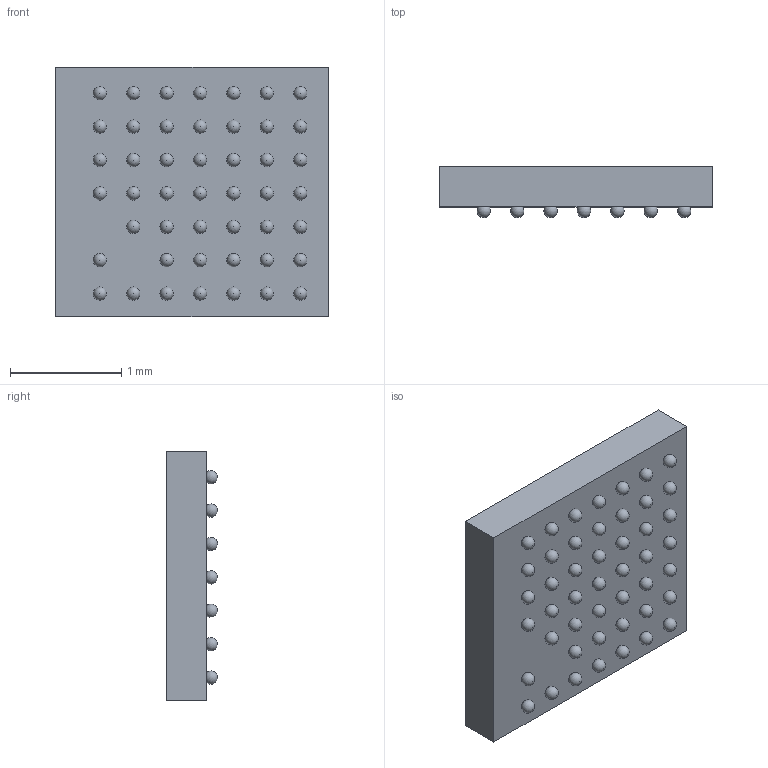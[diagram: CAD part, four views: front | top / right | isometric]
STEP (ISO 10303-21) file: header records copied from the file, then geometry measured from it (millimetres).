
FILE_DESCRIPTION(('FreeCAD Model'),'2;1');
FILE_NAME('Open CASCADE Shape Model','2025-09-13T01:46:28',(''),(''), 'Open CASCADE STEP processor 7.8','FreeCAD','Unknown');
FILE_SCHEMA(('AUTOMOTIVE_DESIGN { 1 0 10303 214 1 1 1 1 }'));
Length unit declared in the file: millimetre
Products named in the file (50): BGA_Test; Body_Solid1; Body002_Solid1; BALL_0001; BALL_0002; BALL_0003; BALL_0004; BALL_0005; BALL_0006; BALL_0007; BALL_0008; BALL_0009; BALL_0010; BALL_0011; BALL_0012; BALL_0013; BALL_0014; BALL_0015; BALL_0016; BALL_0017; BALL_0018; BALL_0019; BALL_0020; BALL_0021; BALL_0022; BALL_0023; BALL_0024; BALL_0025; BALL_0026; BALL_0027; BALL_0028; BALL_0029; BALL_0030; BALL_0031; BALL_0032; BALL_0033; BALL_0034; BALL_0035; BALL_0036; BALL_0037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
Assembly tree (49 placements, depth 2):
  BGA_Test
    Body_Solid1
    Body002_Solid1
    BALL_0001
    BALL_0002
    BALL_0003
    BALL_0004
    BALL_0005
    BALL_0006
    BALL_0007
    BALL_0008
    BALL_0009
    BALL_0010
    BALL_0011
    BALL_0012
    BALL_0013
    BALL_0014
    BALL_0015
    BALL_0016
    BALL_0017
    BALL_0018
    BALL_0019
    BALL_0020
    BALL_0021
    BALL_0022
    BALL_0023
    BALL_0024
    BALL_0025
    BALL_0026
    BALL_0027
    BALL_0028
    BALL_0029
    BALL_0030
    BALL_0031
    BALL_0032
    BALL_0033
    BALL_0034
    BALL_0035
    BALL_0036
    BALL_0037
    BALL_0038
    BALL_0039
    BALL_0040
    BALL_0041
    BALL_0042
    BALL_0043
    BALL_0044
    BALL_0045
    BALL_0046
    BALL_0047
Bounding box: 2.45 x 0.46 x 2.25 mm (x, y, z)
Volume: 2 mm3; surface area: 16.7 mm2
Topology: 49 solids, 49 shells, 105 faces, 159 edges, 106 vertices
Faces by surface type: plane 56, sphere 47, cylinder 2
Full cylindrical faces by diameter (mm): 0.288 x2
Entity records: 3426 total; most frequent: DIRECTION 520, CARTESIAN_POINT 373, AXIS2_PLACEMENT_3D 253, ORIENTED_EDGE 224, EDGE_CURVE 112, FACE_BOUND 106, EDGE_LOOP 106, VERTEX_POINT 106
